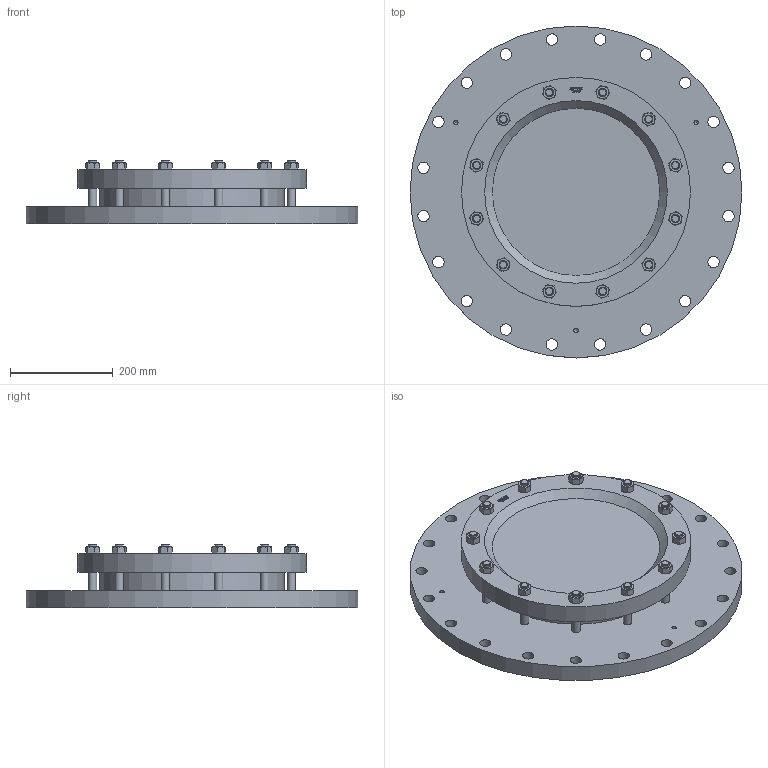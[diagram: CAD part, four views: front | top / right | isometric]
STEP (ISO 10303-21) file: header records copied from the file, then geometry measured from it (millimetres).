
FILE_DESCRIPTION(/* description */ (''),/* implementation_level */ '2;1');
FILE_NAME(/* name */ 'W:\Konstruktion_ACI\325\_STEP\325-500-6.stp',/* time_stamp */ '2022-03-02T17:14:48+01:00',/* author */ ('koslowksi'),/* organization */ (''),/* preprocessor_version */ 'ST-DEVELOPER v16.1',/* originating_system */ 'Autodesk Inventor 2016',/* authorisation */ '');
FILE_SCHEMA (('AUTOMOTIVE_DESIGN { 1 0 10303 214 3 1 1 }'));
Length unit declared in the file: millimetre
Products named in the file (1): 325-500-6
Bounding box: 645 x 645 x 123 mm (x, y, z)
Volume: 18583830.5 mm3; surface area: 991863.8 mm2
Topology: 1 solids, 1 shells, 549 faces, 1376 edges, 875 vertices
Faces by surface type: plane 231, cone 160, bspline 108, cylinder 50
Full cylindrical faces by diameter (mm): 8.376 x3, 16 x24, 22 x20, 359 x1, 445 x1, 645 x1
Entity records: 16554 total; most frequent: CARTESIAN_POINT 4645, ORIENTED_EDGE 2550, DIRECTION 1913, EDGE_CURVE 1275, VERTEX_POINT 840, EDGE_LOOP 725, AXIS2_PLACEMENT_3D 700, FACE_OUTER_BOUND 549
